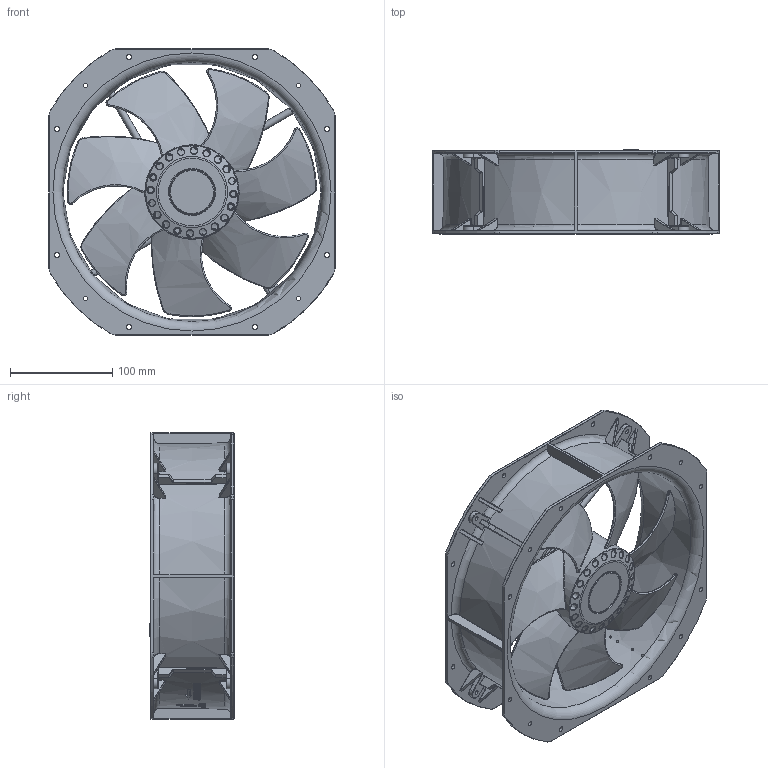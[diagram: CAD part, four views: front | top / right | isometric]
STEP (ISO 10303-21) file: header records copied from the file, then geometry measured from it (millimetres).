
FILE_DESCRIPTION(/* description */ (''),/* implementation_level */ '2;1');
FILE_NAME(/* name */ 'D:\Котлубовский\Вентиляторы\VENT-28080.24VDC.7MRHB\На отправку\VENT-28080.24VDC.7MRHB.stp',/* time_stamp */ '2022-09-29T20:35:07+07:00',/* author */ ('YURY_'),/* organization */ (''),/* preprocessor_version */ 'ST-DEVELOPER v17.2',/* originating_system */ 'Autodesk Inventor 2019',/* authorisation */ '');
FILE_SCHEMA (('AUTOMOTIVE_DESIGN { 1 0 10303 214 3 1 1 }'));
Length unit declared in the file: millimetre
Products named in the file (9): VENT-28080.24VDC.7MRHB; 1_VENT-28080.24VDC.7MRHB; 2_VENT-28080.24VDC.7MRHB; 3_VENT-28080.24VDC.7MRHB; Винт 2.M3-6gx16 ГОСТ 
10337-80; Винт M2-6gx8 ГОСТ 
1491-80; 4_VENT-28080.24VDC.7MRHB; 5_VENT-28080.24VDC.7MRHB; 6_VENT-28080.24VDC.7MRHB
Assembly tree (18 placements, depth 2):
  VENT-28080.24VDC.7MRHB
    1_VENT-28080.24VDC.7MRHB
    2_VENT-28080.24VDC.7MRHB
    3_VENT-28080.24VDC.7MRHB
    Винт 2.M3-6gx16 ГОСТ 
10337-80  x2
    Винт M2-6gx8 ГОСТ 
1491-80  x10
    4_VENT-28080.24VDC.7MRHB
    5_VENT-28080.24VDC.7MRHB
    6_VENT-28080.24VDC.7MRHB
Bounding box: 280 x 82.2 x 280 mm (x, y, z)
Volume: 742633.1 mm3; surface area: 383476.8 mm2
Topology: 18 solids, 20 shells, 7056 faces, 17302 edges, 10721 vertices
Faces by surface type: plane 2756, bspline 2395, cylinder 977, torus 471, sphere 316, cone 141
Full cylindrical faces by diameter (mm): 1.3 x2, 1.567 x10, 1.9 x4, 2 x12, 2.459 x3, 3 x2, 3.242 x1, 3.3 x4, 3.5 x5, 3.7 x1, 3.8 x10, 3.85 x10, 4.134 x8, 5 x18, 5.5 x2, 68 x1, 86 x2, 92.335 x1
Entity records: 249379 total; most frequent: CARTESIAN_POINT 98881, ORIENTED_EDGE 33916, DIRECTION 25438, EDGE_CURVE 16958, VERTEX_POINT 10516, AXIS2_PLACEMENT_3D 8573, LINE 8292, VECTOR 8292
